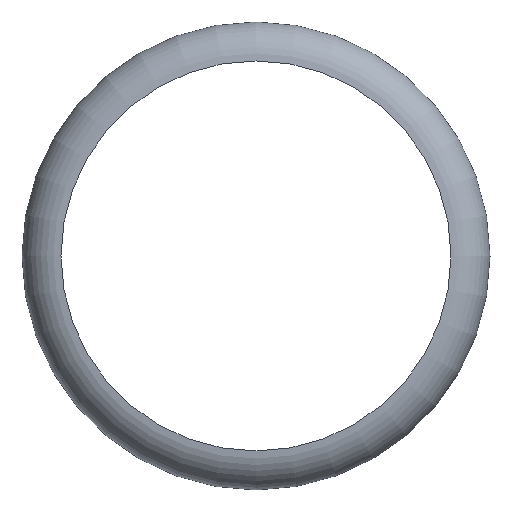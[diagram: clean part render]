
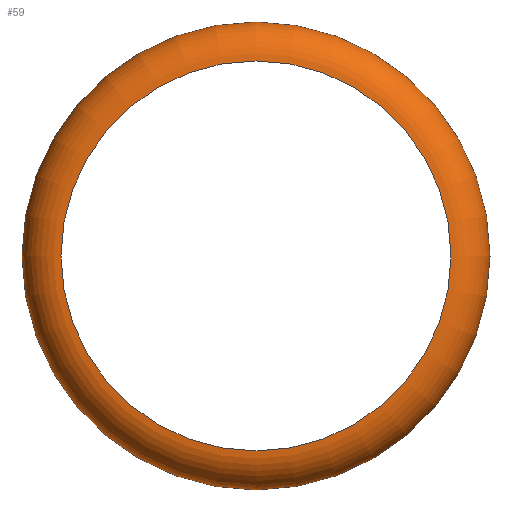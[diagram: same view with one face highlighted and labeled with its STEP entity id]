
A CAD part, top view. The second image highlights one B-rep face of the part: STEP entity #59.
In plain terms, the highlighted toroidal (fillet/blend) face has major radius 5 mm and minor radius 1 mm.
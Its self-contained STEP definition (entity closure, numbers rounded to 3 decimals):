
#1=CARTESIAN_POINT('',(0.,0.,0.));
#2=CARTESIAN_POINT('',(6.,0.,0.));
#3=CARTESIAN_POINT('',(-3.,5.196,0.));
#4=CARTESIAN_POINT('',(0.,5.,1.));
#5=CARTESIAN_POINT('',(0.,0.,1.));
#6=CARTESIAN_POINT('',(-3.,-5.196,0.));
#10=VERTEX_POINT('',#2);
#11=VERTEX_POINT('',#3);
#12=VERTEX_POINT('',#4);
#13=VERTEX_POINT('',#6);
#20=DIRECTION('',(0.,0.,1.));
#21=DIRECTION('',(1.,0.,0.));
#22=AXIS2_PLACEMENT_3D('',#1,#20,#21);
#23=AXIS2_PLACEMENT_3D('',#5,#20,#21);
#30=CIRCLE('',#22,6.);
#31=CIRCLE('',#23,5.);
#40=EDGE_CURVE('',#10,#11,#30,.T.);
#41=EDGE_CURVE('',#11,#13,#30,.T.);
#42=EDGE_CURVE('',#12,#12,#31,.T.);
#43=EDGE_CURVE('',#13,#10,#30,.T.);
#50=ORIENTED_EDGE('',*,*,#40,.T.);
#51=ORIENTED_EDGE('',*,*,#41,.T.);
#52=ORIENTED_EDGE('',*,*,#42,.F.);
#53=ORIENTED_EDGE('',*,*,#43,.T.);
#54=EDGE_LOOP('',(#50,#51,#53));
#55=EDGE_LOOP('',(#52));
#56=FACE_OUTER_BOUND('',#54,.T.);
#57=FACE_OUTER_BOUND('',#55,.T.);
#58=TOROIDAL_SURFACE('',#22,5.,1.);
#59=ADVANCED_FACE('',(#56,#57),#58,.T.);
